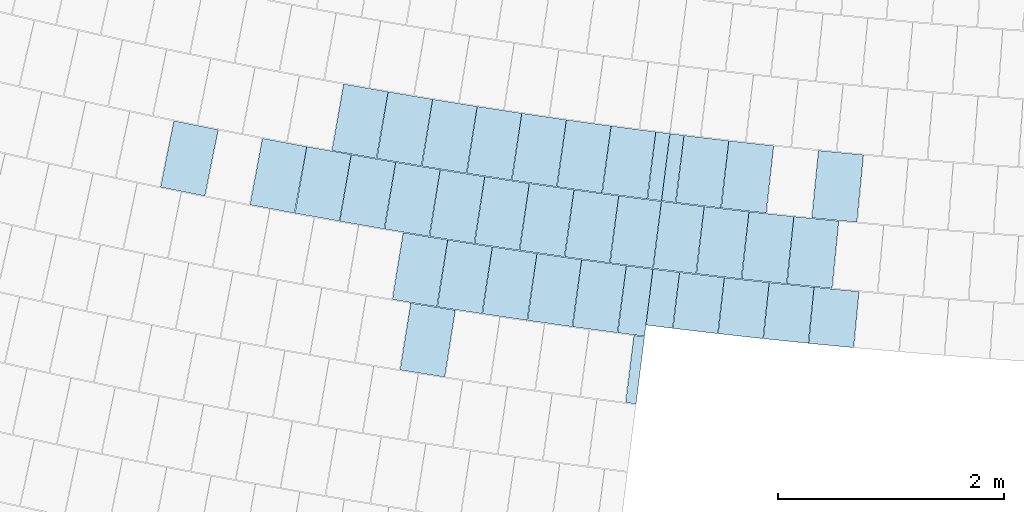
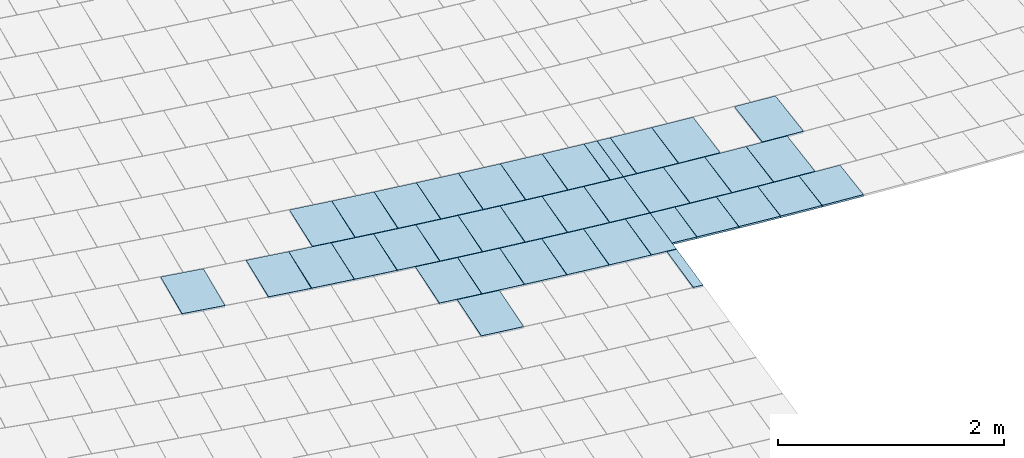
# One storey, part 36 of 438: 39 slabs.
"""IFC2X3 building model written with IfcOpenShell, lengths in millimetres."""

from ifc_helpers import new_model, entity, si_unit, converted_unit, derived_unit, direction, frame, frame_2d, origin, origin_2d_with_axis, place, context, subcontext, project, spatial, polyline, rectangle, outline, extrude, material, layer, layer_set, layer_usage, type_object, element, save


model = new_model("IFC2X3")

# Units and contexts
model_context = context("Model", 3, precision=0.01, world=origin(), true_north=direction((6.123031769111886e-17, 1.0)))
body_context = subcontext(model_context, "Body", "Model", "MODEL_VIEW")
ifc_project = project(units=[si_unit("LENGTHUNIT", "METRE", prefix="MILLI"), si_unit("AREAUNIT", "SQUARE_METRE"), si_unit("VOLUMEUNIT", "CUBIC_METRE"), converted_unit("PLANEANGLEUNIT", "DEGREE", entity("IfcRatioMeasure", 0.017453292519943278), si_unit("PLANEANGLEUNIT", "RADIAN"), dimensions=[0, 0, 0, 0, 0, 0, 0]), si_unit("MASSUNIT", "GRAM", prefix="KILO"), derived_unit("MASSDENSITYUNIT", [(si_unit("MASSUNIT", "GRAM", prefix="KILO"), 1), (si_unit("LENGTHUNIT", "METRE"), -3)]), derived_unit("MOMENTOFINERTIAUNIT", [(si_unit("LENGTHUNIT", "METRE"), 4)]), si_unit("TIMEUNIT", "SECOND"), si_unit("FREQUENCYUNIT", "HERTZ"), si_unit("THERMODYNAMICTEMPERATUREUNIT", "DEGREE_CELSIUS"), derived_unit("THERMALTRANSMITTANCEUNIT", [(si_unit("MASSUNIT", "GRAM", prefix="KILO"), 1), (si_unit("THERMODYNAMICTEMPERATUREUNIT", "KELVIN"), -1), (si_unit("TIMEUNIT", "SECOND"), -3)]), derived_unit("THERMALCONDUCTANCEUNIT", [(si_unit("MASSUNIT", "GRAM", prefix="KILO"), 1), (si_unit("LENGTHUNIT", "METRE"), 1), (si_unit("THERMODYNAMICTEMPERATUREUNIT", "KELVIN"), -1), (si_unit("TIMEUNIT", "SECOND"), -3)]), derived_unit("VOLUMETRICFLOWRATEUNIT", [(si_unit("LENGTHUNIT", "METRE"), 3), (si_unit("TIMEUNIT", "SECOND"), -1)]), derived_unit("MASSFLOWRATEUNIT", [(si_unit("MASSUNIT", "GRAM", prefix="KILO"), 1), (si_unit("TIMEUNIT", "SECOND"), -1)]), derived_unit("ROTATIONALFREQUENCYUNIT", [(si_unit("TIMEUNIT", "SECOND"), -1)]), si_unit("ELECTRICCURRENTUNIT", "AMPERE"), si_unit("ELECTRICVOLTAGEUNIT", "VOLT"), si_unit("POWERUNIT", "WATT"), converted_unit("FORCEUNIT", "KIP", entity("IfcRatioMeasure", 2.088543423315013e-05), si_unit("FORCEUNIT", "NEWTON"), dimensions=[1, 1, -2, 0, 0, 0, 0]), si_unit("ILLUMINANCEUNIT", "LUX"), si_unit("LUMINOUSFLUXUNIT", "LUMEN"), si_unit("LUMINOUSINTENSITYUNIT", "CANDELA"), derived_unit("USERDEFINED", [(si_unit("MASSUNIT", "GRAM", prefix="KILO"), -1), (si_unit("LENGTHUNIT", "METRE"), -2), (si_unit("TIMEUNIT", "SECOND"), 3), (si_unit("LUMINOUSFLUXUNIT", "LUMEN"), 1)]), derived_unit("USERDEFINED", [(si_unit("MASSUNIT", "GRAM", prefix="KILO"), 1), (si_unit("LENGTHUNIT", "METRE"), 3), (si_unit("TIMEUNIT", "SECOND"), -3), (si_unit("ELECTRICCURRENTUNIT", "AMPERE"), -2)]), derived_unit("USERDEFINED", [(si_unit("LENGTHUNIT", "METRE"), 2), (si_unit("TIMEUNIT", "SECOND"), -2)]), derived_unit("SOUNDPOWERUNIT", [(si_unit("MASSUNIT", "GRAM", prefix="KILO"), 1), (si_unit("LENGTHUNIT", "METRE"), 2), (si_unit("TIMEUNIT", "SECOND"), -3)]), derived_unit("SOUNDPRESSUREUNIT", [(si_unit("MASSUNIT", "GRAM", prefix="KILO"), 1), (si_unit("LENGTHUNIT", "METRE"), -1), (si_unit("TIMEUNIT", "SECOND"), -2)]), derived_unit("LINEARVELOCITYUNIT", [(si_unit("LENGTHUNIT", "METRE"), 1), (si_unit("TIMEUNIT", "SECOND"), -1)]), si_unit("PRESSUREUNIT", "PASCAL"), derived_unit("USERDEFINED", [(si_unit("LENGTHUNIT", "METRE"), -2), (si_unit("MASSUNIT", "GRAM", prefix="KILO"), 1), (si_unit("TIMEUNIT", "SECOND"), -2)]), derived_unit("LINEARFORCEUNIT", [(si_unit("MASSUNIT", "GRAM", prefix="KILO"), 1), (si_unit("LENGTHUNIT", "METRE"), 1), (si_unit("TIMEUNIT", "SECOND"), -2), (si_unit("LENGTHUNIT", "METRE"), -1)]), derived_unit("PLANARFORCEUNIT", [(si_unit("MASSUNIT", "GRAM", prefix="KILO"), 1), (si_unit("LENGTHUNIT", "METRE"), 1), (si_unit("TIMEUNIT", "SECOND"), -2), (si_unit("LENGTHUNIT", "METRE"), -2)]), derived_unit("SPECIFICHEATCAPACITYUNIT", [(si_unit("LENGTHUNIT", "METRE"), 2), (si_unit("TIMEUNIT", "SECOND"), -2), (si_unit("THERMODYNAMICTEMPERATUREUNIT", "KELVIN"), -1)]), derived_unit("VAPORPERMEABILITYUNIT", [(si_unit("TIMEUNIT", "SECOND"), 1), (si_unit("LENGTHUNIT", "METRE"), -1)]), derived_unit("DYNAMICVISCOSITYUNIT", [(si_unit("MASSUNIT", "GRAM", prefix="KILO"), 1), (si_unit("LENGTHUNIT", "METRE"), -1), (si_unit("TIMEUNIT", "SECOND"), -1)]), derived_unit("THERMALEXPANSIONCOEFFICIENTUNIT", [(si_unit("THERMODYNAMICTEMPERATUREUNIT", "KELVIN"), -1)])], contexts=[model_context])

# Site, building, storey
site_placement = place(None, frame((0.0, 0.0, 0.0), z_axis=(0.0, 0.0, 1.0), x_axis=(0.8191520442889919, 0.5735764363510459, 0.0)))
site = spatial("IfcSite", under=ifc_project, at=site_placement, Name="Default", CompositionType="ELEMENT")
building_placement = place(site_placement, origin())
building = spatial("IfcBuilding", under=site, at=building_placement, CompositionType="ELEMENT")
storey_placement = place(building_placement, origin())
storey = spatial("IfcBuildingStorey", under=building, at=storey_placement, Name="PLAN", CompositionType="ELEMENT", Elevation=0.0)

# Slabs
ifc_material = material(Name="Paint-01")
ifc_layer = layer(ifc_material, 20.00000000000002)
ifc_layer_set = layer_set([ifc_layer], Name="Floor:Slab-179:1000")
ifc_layer_usage = layer_usage(ifc_layer_set, "AXIS3", "POSITIVE", 0.0)
slab_type = type_object("IfcSlabType", Name="Floor:Slab-179:1000", PredefinedType="FLOOR", material=ifc_layer_set)
slab_1_placement = place(storey_placement, origin())
element("IfcSlab", 1, at=slab_1_placement, inside=storey, type_object=slab_type, material=ifc_layer_usage, Name="Floor:Slab-179:1000", ObjectType="Floor:Slab-179:1000", PredefinedType="FLOOR", context=body_context, shape_type="SweptSolid", body=[
    extrude(outline(polyline([(-299.9999976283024, -200.0000029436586), (300.0, -200.0000029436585), (299.9999976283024, 200.0000029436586), (-300.0, 200.00000294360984), (-299.9999976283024, -200.0000029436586)])), frame((-80055.35544558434, -108795.60264176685, 520.0), z_axis=(0.0, 0.0, -1.0), x_axis=(-0.697257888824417, -0.7168203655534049, 0.0)), (0.0, 0.0, 1.0), 20.000000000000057),
])
slab_2_placement = place(storey_placement, origin())
element("IfcSlab", 2, at=slab_2_placement, inside=storey, type_object=slab_type, material=ifc_layer_usage, Name="Floor:Slab-179:1000", ObjectType="Floor:Slab-179:1000", PredefinedType="FLOOR", context=body_context, shape_type="SweptSolid", body=[
    extrude(outline(polyline([(-299.9999976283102, -200.00000294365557), (300.0, -200.00000294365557), (299.9999976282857, 200.0000029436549), (-300.0, 200.00000294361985), (-299.9999976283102, -200.00000294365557)])), frame((-79474.92879441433, -109352.27222375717, 520.0), z_axis=(0.0, 0.0, -1.0), x_axis=(-0.6870722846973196, -0.7265890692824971, 0.0)), (0.0, 0.0, 1.0), 20.000000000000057),
])
slab_3_placement = place(storey_placement, origin())
element("IfcSlab", 3, at=slab_3_placement, inside=storey, type_object=slab_type, material=ifc_layer_usage, Name="Floor:Slab-179:1000", ObjectType="Floor:Slab-179:1000", PredefinedType="FLOOR", context=body_context, shape_type="SweptSolid", body=[
    extrude(outline(polyline([(-299.99999762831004, -200.00000294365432), (300.0, -200.00000294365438), (299.99999762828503, 200.0000029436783), (-300.0, 200.0000029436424), (-299.99999762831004, -200.00000294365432)])), frame((-79766.1241603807, -109074.96138382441, 520.0), z_axis=(0.0, 0.0, -1.0), x_axis=(-0.692182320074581, -0.7217226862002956, 0.0)), (0.0, 0.0, 1.0), 20.000000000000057),
])
slab_4_placement = place(storey_placement, origin())
element("IfcSlab", 4, at=slab_4_placement, inside=storey, type_object=slab_type, material=ifc_layer_usage, Name="Floor:Slab-179:1000", ObjectType="Floor:Slab-179:1000", PredefinedType="FLOOR", context=body_context, shape_type="SweptSolid", body=[
    extrude(outline(polyline([(-299.99999762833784, -200.0000029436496), (300.0, -200.00000294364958), (299.99999762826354, 200.00000294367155), (-300.0, 200.00000294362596), (-299.99999762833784, -200.0000029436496)])), frame((-79181.78384750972, -109627.52135310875, 520.0), z_axis=(0.0, 0.0, -1.0), x_axis=(-0.6819280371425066, -0.7314192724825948, 0.0)), (0.0, 0.0, 1.0), 20.000000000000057),
])
slab_5_placement = place(storey_placement, origin())
element("IfcSlab", 5, at=slab_5_placement, inside=storey, type_object=slab_type, material=ifc_layer_usage, Name="Floor:Slab-179:1000", ObjectType="Floor:Slab-179:1000", PredefinedType="FLOOR", context=body_context, shape_type="SweptSolid", body=[
    extrude(outline(polyline([(-299.9999980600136, -118.85163078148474), (299.999999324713, -118.8516307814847), (299.99999806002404, 118.85163078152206), (-299.99999932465, 118.85163078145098), (-299.9999980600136, -118.85163078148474)])), frame((-78649.8322184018, -110117.28554989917, 520.0), z_axis=(0.0, 0.0, -1.0), x_axis=(-0.6715379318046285, -0.7409701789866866, 0.0)), (0.0, 0.0, 1.0), 20.000000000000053),
])
slab_6_placement = place(storey_placement, origin())
element("IfcSlab", 6, at=slab_6_placement, inside=storey, type_object=slab_type, material=ifc_layer_usage, Name="Floor:Slab-179:1000", ObjectType="Floor:Slab-179:1000", PredefinedType="FLOOR", context=body_context, shape_type="SweptSolid", body=[
    extrude(outline(polyline([(-299.99999762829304, -200.00000294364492), (300.0, -200.0000029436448), (299.99999762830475, 200.00000294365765), (-300.0, 200.00000294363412), (-299.99999762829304, -200.00000294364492)])), frame((-78886.70391656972, -109900.69506608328, 520.0), z_axis=(0.0, 0.0, -1.0), x_axis=(-0.6767498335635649, -0.736213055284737, 0.0)), (0.0, 0.0, 1.0), 20.000000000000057),
])
slab_7_placement = place(storey_placement, origin())
element("IfcSlab", 7, at=slab_7_placement, inside=storey, type_object=slab_type, material=ifc_layer_usage, Name="Floor:Slab-179:1000", ObjectType="Floor:Slab-179:1000", PredefinedType="FLOOR", context=body_context, shape_type="SweptSolid", body=[
    extrude(outline(polyline([(-299.9999976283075, -200.0000029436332), (300.0, -200.00000294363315), (299.99999762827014, 200.00000294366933), (-300.0, 200.00000294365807), (-299.9999976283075, -200.0000029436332)])), frame((-80357.52409847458, -109345.34876439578, 520.0), z_axis=(0.0, 0.0, -1.0), x_axis=(-0.6951798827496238, -0.7188358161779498, 0.0)), (0.0, 0.0, 1.0), 20.000000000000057),
])
slab_8_placement = place(storey_placement, origin())
element("IfcSlab", 8, at=slab_8_placement, inside=storey, type_object=slab_type, material=ifc_layer_usage, Name="Floor:Slab-179:1000", ObjectType="Floor:Slab-179:1000", PredefinedType="FLOOR", context=body_context, shape_type="SweptSolid", body=[
    extrude(outline(polyline([(-300.0869166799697, -46.52403072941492), (299.91411537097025, -46.52403072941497), (300.08588201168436, 45.96689444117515), (-299.9130807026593, 47.08116701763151), (-300.0869166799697, -46.52403072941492)])), frame((-79002.21089198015, -110614.69864731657, 520.0), z_axis=(0.0, 0.0, -1.0), x_axis=(-0.6710449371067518, -0.7414166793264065, 0.0)), (0.0, 0.0, 1.0), 19.99999999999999),
])
slab_9_placement = place(storey_placement, origin())
element("IfcSlab", 9, at=slab_9_placement, inside=storey, type_object=slab_type, material=ifc_layer_usage, Name="Floor:Slab-179:1000", ObjectType="Floor:Slab-179:1000", PredefinedType="FLOOR", context=body_context, shape_type="SweptSolid", body=[
    extrude(outline(polyline([(-200.00000134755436, -299.9999986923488), (200.00000453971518, -299.9999986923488), (200.00000134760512, 299.9999986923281), (-200.00000453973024, 299.9999986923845), (-200.00000134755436, -299.9999986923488)])), frame((-76598.19095483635, -110313.81783896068, 520.0), z_axis=(0.0, 0.0, -1.0), x_axis=(0.759591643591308, -0.6504002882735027, 0.0)), (0.0, 0.0, 1.0), 19.999999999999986),
])
slab_10_placement = place(storey_placement, origin())
element("IfcSlab", 10, at=slab_10_placement, inside=storey, type_object=slab_type, material=ifc_layer_usage, Name="Floor:Slab-179:1000", ObjectType="Floor:Slab-179:1000", PredefinedType="FLOOR", context=body_context, shape_type="SweptSolid", body=[
    extrude(outline(polyline([(-200.0000013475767, -299.99999869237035), (200.00000453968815, -299.99999869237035), (200.00000134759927, 299.99999869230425), (-200.00000453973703, 299.9999986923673), (-200.0000013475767, -299.99999869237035)])), frame((-77205.35471754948, -109786.29900447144, 520.0), z_axis=(0.0, 0.0, -1.0), x_axis=(0.7501336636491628, -0.6612862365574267, 0.0)), (0.0, 0.0, 1.0), 20.000000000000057),
])
slab_11_placement = place(storey_placement, origin())
element("IfcSlab", 11, at=slab_11_placement, inside=storey, type_object=slab_type, material=ifc_layer_usage, Name="Floor:Slab-179:1000", ObjectType="Floor:Slab-179:1000", PredefinedType="FLOOR", context=body_context, shape_type="SweptSolid", body=[
    extrude(outline(polyline([(-299.9999990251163, -62.54949369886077), (299.9999983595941, -62.549493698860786), (299.99999902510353, 62.54949369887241), (-299.9999983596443, 62.549493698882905), (-299.9999990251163, -62.54949369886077)])), frame((-77703.06353469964, -109342.45101478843, 520.0), z_axis=(0.0, 0.0, -1.0), x_axis=(-0.6720346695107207, -0.7405196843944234, 0.0)), (0.0, 0.0, 1.0), 19.99999999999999),
])
slab_12_placement = place(storey_placement, origin())
element("IfcSlab", 12, at=slab_12_placement, inside=storey, type_object=slab_type, material=ifc_layer_usage, Name="Floor:Slab-179:1000", ObjectType="Floor:Slab-179:1000", PredefinedType="FLOOR", context=body_context, shape_type="SweptSolid", body=[
    extrude(outline(polyline([(-200.00000134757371, -299.9999986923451), (200.0000045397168, -299.99999869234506), (200.00000134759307, 299.9999986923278), (-200.0000045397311, 299.9999986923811), (-200.00000134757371, -299.9999986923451)])), frame((-77506.0681269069, -109519.26991161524, 520.0), z_axis=(0.0, 0.0, -1.0), x_axis=(0.7453460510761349, -0.66667778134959, 0.0)), (0.0, 0.0, 1.0), 20.000000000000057),
])
slab_13_placement = place(storey_placement, origin())
element("IfcSlab", 13, at=slab_13_placement, inside=storey, type_object=slab_type, material=ifc_layer_usage, Name="Floor:Slab-179:1000", ObjectType="Floor:Slab-179:1000", PredefinedType="FLOOR", context=body_context, shape_type="SweptSolid", body=[
    extrude(outline(polyline([(-200.00000134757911, -299.9999986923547), (200.00000453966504, -299.9999986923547), (200.0000013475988, 299.9999986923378), (-200.00000453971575, 299.99999869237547), (-200.00000134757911, -299.9999986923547)])), frame((-77114.28128520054, -110668.0912327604, 520.0), z_axis=(0.0, 0.0, -1.0), x_axis=(0.757724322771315, -0.6525747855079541, 0.0)), (0.0, 0.0, 1.0), 19.999999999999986),
])
slab_14_placement = place(storey_placement, origin())
element("IfcSlab", 14, at=slab_14_placement, inside=storey, type_object=slab_type, material=ifc_layer_usage, Name="Floor:Slab-179:1000", ObjectType="Floor:Slab-179:1000", PredefinedType="FLOOR", context=body_context, shape_type="SweptSolid", body=[
    extrude(outline(polyline([(-200.00000134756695, -299.99999869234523), (200.00000453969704, -299.99999869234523), (200.00000134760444, 299.99999869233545), (-200.0000045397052, 299.9999986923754), (-200.00000134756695, -299.99999869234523)])), frame((-77418.05263272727, -110404.58158332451, 520.0), z_axis=(0.0, 0.0, -1.0), x_axis=(0.7530505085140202, -0.6579627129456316, 0.0)), (0.0, 0.0, 1.0), 20.000000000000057),
])
slab_15_placement = place(storey_placement, origin())
element("IfcSlab", 15, at=slab_15_placement, inside=storey, type_object=slab_type, material=ifc_layer_usage, Name="Floor:Slab-179:1000", ObjectType="Floor:Slab-179:1000", PredefinedType="FLOOR", context=body_context, shape_type="SweptSolid", body=[
    extrude(outline(polyline([(-200.00000134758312, -299.99999869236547), (200.00000453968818, -299.99999869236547), (200.00000134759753, 299.9999986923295), (-200.00000453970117, 299.9999986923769), (-200.00000134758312, -299.99999869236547)])), frame((-77719.93675031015, -110138.91196429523, 520.0), z_axis=(0.0, 0.0, -1.0), x_axis=(0.7483383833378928, -0.6633171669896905, 0.0)), (0.0, 0.0, 1.0), 20.000000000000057),
])
slab_16_placement = place(storey_placement, origin())
element("IfcSlab", 16, at=slab_16_placement, inside=storey, type_object=slab_type, material=ifc_layer_usage, Name="Floor:Slab-179:1000", ObjectType="Floor:Slab-179:1000", PredefinedType="FLOOR", context=body_context, shape_type="SweptSolid", body=[
    extrude(outline(polyline([(-190.8923206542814, -299.9999986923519), (190.89232384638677, -299.9999986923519), (190.89232065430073, 299.99999869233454), (-190.89232384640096, 299.9999986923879), (-190.8923206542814, -299.9999986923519)])), frame((-78013.14591603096, -109877.18563169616, 520.0), z_axis=(0.0, 0.0, -1.0), x_axis=(0.7435881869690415, -0.668637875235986, 0.0)), (0.0, 0.0, 1.0), 19.999999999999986),
])
slab_17_placement = place(storey_placement, origin())
element("IfcSlab", 17, at=slab_17_placement, inside=storey, type_object=slab_type, material=ifc_layer_usage, Name="Floor:Slab-179:1000", ObjectType="Floor:Slab-179:1000", PredefinedType="FLOOR", context=body_context, shape_type="SweptSolid", body=[
    extrude(outline(polyline([(-200.0000016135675, -249.9999986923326), (200.0000042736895, -249.9999986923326), (200.00000161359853, 249.9999986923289), (-200.0000042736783, 249.99999869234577), (-200.0000016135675, -249.9999986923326)])), frame((-77292.71294840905, -111246.19785869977, 520.0), z_axis=(0.0, 0.0, -1.0), x_axis=(0.7604918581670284, -0.6493474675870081, 0.0)), (0.0, 0.0, 1.0), 20.000000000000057),
])
slab_18_placement = place(storey_placement, origin())
element("IfcSlab", 18, at=slab_18_placement, inside=storey, type_object=slab_type, material=ifc_layer_usage, Name="Floor:Slab-179:1000", ObjectType="Floor:Slab-179:1000", PredefinedType="FLOOR", context=body_context, shape_type="SweptSolid", body=[
    extrude(outline(polyline([(-200.00000161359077, -249.99999869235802), (200.0000042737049, -249.99999869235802), (200.0000016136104, 249.999998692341), (-200.00000427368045, 249.99999869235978), (-200.00000161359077, -249.99999869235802)])), frame((-77597.32704199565, -110984.23856866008, 520.0), z_axis=(0.0, 0.0, -1.0), x_axis=(0.7558908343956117, -0.654697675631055, 0.0)), (0.0, 0.0, 1.0), 20.000000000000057),
])
slab_19_placement = place(storey_placement, origin())
element("IfcSlab", 19, at=slab_19_placement, inside=storey, type_object=slab_type, material=ifc_layer_usage, Name="Floor:Slab-179:1000", ObjectType="Floor:Slab-179:1000", PredefinedType="FLOOR", context=body_context, shape_type="SweptSolid", body=[
    extrude(outline(polyline([(-200.00000161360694, -249.99999869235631), (200.00000427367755, -249.99999869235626), (200.00000161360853, 249.99999869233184), (-200.0000042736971, 249.99999869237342), (-200.00000161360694, -249.99999869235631)])), frame((-77900.08504821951, -110720.13630566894, 520.0), z_axis=(0.0, 0.0, -1.0), x_axis=(0.751252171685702, -0.6600152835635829, 0.0)), (0.0, 0.0, 1.0), 19.999999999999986),
])
slab_20_placement = place(storey_placement, origin())
element("IfcSlab", 20, at=slab_20_placement, inside=storey, type_object=slab_type, material=ifc_layer_usage, Name="Floor:Slab-179:1000", ObjectType="Floor:Slab-179:1000", PredefinedType="FLOOR", context=body_context, shape_type="SweptSolid", body=[
    extrude(outline(polyline([(-249.99999932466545, -118.85163078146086), (249.9999980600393, -118.85163078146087), (249.99999932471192, 118.85163078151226), (-249.99999806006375, 118.85163078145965), (-249.99999932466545, -118.85163078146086)])), frame((-78439.77162637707, -110239.96974403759, 520.0), z_axis=(0.0, 0.0, -1.0), x_axis=(-0.6705516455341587, -0.741862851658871, 0.0)), (0.0, 0.0, 1.0), 20.000000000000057),
])
slab_21_placement = place(storey_placement, origin())
element("IfcSlab", 21, at=slab_21_placement, inside=storey, type_object=slab_type, material=ifc_layer_usage, Name="Floor:Slab-179:1000", ObjectType="Floor:Slab-179:1000", PredefinedType="FLOOR", context=body_context, shape_type="SweptSolid", body=[
    extrude(outline(polyline([(-200.0000016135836, -249.99999869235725), (200.00000427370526, -249.99999869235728), (200.0000016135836, 249.99999869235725), (-200.00000427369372, 249.9999986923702), (-200.0000016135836, -249.99999869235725)])), frame((-78200.9718915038, -110453.90422047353, 520.0), z_axis=(0.0, 0.0, -1.0), x_axis=(0.7465761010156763, -0.6653000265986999, 0.0)), (0.0, 0.0, 1.0), 20.000000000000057),
])
slab_22_placement = place(storey_placement, origin())
element("IfcSlab", 22, at=slab_22_placement, inside=storey, type_object=slab_type, material=ifc_layer_usage, Name="Floor:Slab-179:1000", ObjectType="Floor:Slab-179:1000", PredefinedType="FLOOR", context=body_context, shape_type="SweptSolid", body=[
    extrude(outline(polyline([(-299.9999976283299, -200.00000294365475), (300.0, -200.00000294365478), (299.99999762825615, 200.00000294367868), (-300.0, 200.00000294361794), (-299.9999976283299, -200.00000294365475)])), frame((-79450.02607362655, -107695.01129342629, 520.0), z_axis=(0.0, 0.0, -1.0), x_axis=(-0.701531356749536, -0.712638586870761, 0.0)), (0.0, 0.0, 1.0), 20.000000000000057),
])
slab_23_placement = place(storey_placement, origin())
element("IfcSlab", 23, at=slab_23_placement, inside=storey, type_object=slab_type, material=ifc_layer_usage, Name="Floor:Slab-179:1000", ObjectType="Floor:Slab-179:1000", PredefinedType="FLOOR", context=body_context, shape_type="SweptSolid", body=[
    extrude(outline(polyline([(-299.9999976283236, -200.00000294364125), (300.0, -200.00000294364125), (299.9999976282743, 200.00000294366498), (-300.0, 200.00000294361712), (-299.9999976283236, -200.00000294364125)])), frame((-79162.4156952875, -107976.10444750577, 520.0), z_axis=(0.0, 0.0, -1.0), x_axis=(-0.6963747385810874, -0.71767835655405, 0.0)), (0.0, 0.0, 1.0), 20.000000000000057),
])
slab_24_placement = place(storey_placement, origin())
element("IfcSlab", 24, at=slab_24_placement, inside=storey, type_object=slab_type, material=ifc_layer_usage, Name="Floor:Slab-179:1000", ObjectType="Floor:Slab-179:1000", PredefinedType="FLOOR", context=body_context, shape_type="SweptSolid", body=[
    extrude(outline(polyline([(-299.9999976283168, -200.00000294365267), (300.0, -200.00000294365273), (299.9999976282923, 200.00000294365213), (-300.0, 200.00000294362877), (-299.9999976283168, -200.00000294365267)])), frame((-78872.78601010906, -108255.11651975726, 520.0), z_axis=(0.0, 0.0, -1.0), x_axis=(-0.6911819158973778, -0.7226808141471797, 0.0)), (0.0, 0.0, 1.0), 19.99999999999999),
])
slab_25_placement = place(storey_placement, origin())
element("IfcSlab", 25, at=slab_25_placement, inside=storey, type_object=slab_type, material=ifc_layer_usage, Name="Floor:Slab-179:1000", ObjectType="Floor:Slab-179:1000", PredefinedType="FLOOR", context=body_context, shape_type="SweptSolid", body=[
    extrude(rectangle(XDim=599.9998730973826, YDim=399.99992303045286, at=origin_2d_with_axis()), frame((-79735.8297577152, -107411.80615755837, 520.0), z_axis=(0.0, 0.0, -1.0), x_axis=(-0.7071067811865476, -0.7071067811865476, 0.0)), (0.0, 0.0, 1.0), 19.999999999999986),
])
slab_26_placement = place(storey_placement, origin())
element("IfcSlab", 26, at=slab_26_placement, inside=storey, type_object=slab_type, material=ifc_layer_usage, Name="Floor:Slab-179:1000", ObjectType="Floor:Slab-179:1000", PredefinedType="FLOOR", context=body_context, shape_type="SweptSolid", body=[
    extrude(outline(polyline([(-299.9999976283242, -200.0000029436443), (300.0, -200.00000294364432), (299.99999762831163, 200.0000029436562), (-300.0, 200.00000294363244), (-299.9999976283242, -200.0000029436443)])), frame((-78581.15207593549, -108532.0330043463, 520.0), z_axis=(0.0, 0.0, -1.0), x_axis=(-0.6859531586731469, -0.727645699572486, 0.0)), (0.0, 0.0, 1.0), 19.99999999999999),
])
slab_27_placement = place(storey_placement, origin())
element("IfcSlab", 27, at=slab_27_placement, inside=storey, type_object=slab_type, material=ifc_layer_usage, Name="Floor:Slab-179:1000", ObjectType="Floor:Slab-179:1000", PredefinedType="FLOOR", context=body_context, shape_type="SweptSolid", body=[
    extrude(outline(polyline([(-299.9999983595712, -62.54949369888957), (299.99999902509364, -62.54949369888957), (299.99999835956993, 62.549493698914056), (-299.999999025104, 62.549493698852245), (-299.9999983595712, -62.54949369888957)])), frame((-77796.40812639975, -109257.96624743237, 520.0), z_axis=(0.0, 0.0, -1.0), x_axis=(-0.670054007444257, -0.7423123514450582, 0.0)), (0.0, 0.0, 1.0), 20.000000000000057),
])
slab_28_placement = place(storey_placement, origin())
element("IfcSlab", 28, at=slab_28_placement, inside=storey, type_object=slab_type, material=ifc_layer_usage, Name="Floor:Slab-179:1000", ObjectType="Floor:Slab-179:1000", PredefinedType="FLOOR", context=body_context, shape_type="SweptSolid", body=[
    extrude(outline(polyline([(-299.99999762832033, -200.00000294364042), (300.0, -200.0000029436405), (299.99999762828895, 200.00000294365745), (-300.0, 200.00000294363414), (-299.99999762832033, -200.00000294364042)])), frame((-77991.93221219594, -109079.52173269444, 520.0), z_axis=(0.0, 0.0, -1.0), x_axis=(-0.6753889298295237, -0.7374617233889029, 0.0)), (0.0, 0.0, 1.0), 20.000000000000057),
])
slab_29_placement = place(storey_placement, origin())
element("IfcSlab", 29, at=slab_29_placement, inside=storey, type_object=slab_type, material=ifc_layer_usage, Name="Floor:Slab-179:1000", ObjectType="Floor:Slab-179:1000", PredefinedType="FLOOR", context=body_context, shape_type="SweptSolid", body=[
    extrude(outline(polyline([(-299.9999976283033, -200.00000294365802), (300.0, -200.00000294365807), (299.99999762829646, 200.00000294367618), (-300.0, 200.00000294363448), (-299.9999976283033, -200.00000294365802)])), frame((-78287.52905481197, -108806.8395043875, 520.0), z_axis=(0.0, 0.0, -1.0), x_axis=(-0.6806887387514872, -0.7325727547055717, 0.0)), (0.0, 0.0, 1.0), 20.000000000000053),
])
slab_30_placement = place(storey_placement, origin())
element("IfcSlab", 30, at=slab_30_placement, inside=storey, type_object=slab_type, material=ifc_layer_usage, Name="Floor:Slab-179:1000", ObjectType="Floor:Slab-179:1000", PredefinedType="FLOOR", context=body_context, shape_type="SweptSolid", body=[
    extrude(rectangle(XDim=599.9965510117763, YDim=399.99770829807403, at=frame_2d((-1.2249756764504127e-11, 0.0), x_axis=(1.0, 0.0))), frame((-80322.49086668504, -107679.16189459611, 520.0), z_axis=(0.0, 0.0, -1.0), x_axis=(-0.7071067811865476, -0.7071067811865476, 0.0)), (0.0, 0.0, 1.0), 19.999999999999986),
])
slab_31_placement = place(storey_placement, origin())
element("IfcSlab", 31, at=slab_31_placement, inside=storey, type_object=slab_type, material=ifc_layer_usage, Name="Floor:Slab-179:1000", ObjectType="Floor:Slab-179:1000", PredefinedType="FLOOR", context=body_context, shape_type="SweptSolid", body=[
    extrude(outline(polyline([(-299.9999976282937, -200.0000029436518), (300.0, -200.00000294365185), (299.99999762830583, 200.00000294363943), (-300.0, 200.00000294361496), (-299.9999976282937, -200.0000029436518)])), frame((-80606.05842443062, -107392.59726767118, 520.0), z_axis=(0.0, 0.0, -1.0), x_axis=(-0.7145076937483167, -0.6996275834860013, 0.0)), (0.0, 0.0, 1.0), 20.000000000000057),
])
slab_32_placement = place(storey_placement, origin())
element("IfcSlab", 32, at=slab_32_placement, inside=storey, type_object=slab_type, material=ifc_layer_usage, Name="Floor:Slab-179:1000", ObjectType="Floor:Slab-179:1000", PredefinedType="FLOOR", context=body_context, shape_type="SweptSolid", body=[
    extrude(outline(polyline([(-299.9999976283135, -200.00000294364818), (300.0, -200.00000294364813), (299.99999762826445, 200.00000294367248), (-300.0, 200.0000029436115), (-299.9999976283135, -200.00000294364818)])), frame((-80039.28490977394, -107963.22588916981, 520.0), z_axis=(0.0, 0.0, -1.0), x_axis=(-0.7044549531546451, -0.7097487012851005, 0.0)), (0.0, 0.0, 1.0), 19.99999999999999),
])
slab_33_placement = place(storey_placement, origin())
element("IfcSlab", 33, at=slab_33_placement, inside=storey, type_object=slab_type, material=ifc_layer_usage, Name="Floor:Slab-179:1000", ObjectType="Floor:Slab-179:1000", PredefinedType="FLOOR", context=body_context, shape_type="SweptSolid", body=[
    extrude(outline(polyline([(-299.9999976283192, -200.00000294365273), (300.0, -200.0000029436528), (299.9999976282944, 200.00000294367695), (-300.0, 200.0000029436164), (-299.9999976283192, -200.00000294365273)])), frame((-79752.86004305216, -108245.49378080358, 520.0), z_axis=(0.0, 0.0, -1.0), x_axis=(-0.6993746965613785, -0.7147552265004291, 0.0)), (0.0, 0.0, 1.0), 20.000000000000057),
])
slab_34_placement = place(storey_placement, origin())
element("IfcSlab", 34, at=slab_34_placement, inside=storey, type_object=slab_type, material=ifc_layer_usage, Name="Floor:Slab-179:1000", ObjectType="Floor:Slab-179:1000", PredefinedType="FLOOR", context=body_context, shape_type="SweptSolid", body=[
    extrude(outline(polyline([(-299.99999762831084, -200.0000029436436), (300.0, -200.0000029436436), (299.9999976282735, 200.00000294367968), (-300.0, 200.00000294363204), (-299.99999762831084, -200.0000029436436)])), frame((-79464.42916469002, -108525.71154492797, 520.0), z_axis=(0.0, 0.0, -1.0), x_axis=(-0.6942588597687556, -0.7197253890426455, 0.0)), (0.0, 0.0, 1.0), 20.000000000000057),
])
slab_35_placement = place(storey_placement, origin())
element("IfcSlab", 35, at=slab_35_placement, inside=storey, type_object=slab_type, material=ifc_layer_usage, Name="Floor:Slab-179:1000", ObjectType="Floor:Slab-179:1000", PredefinedType="FLOOR", context=body_context, shape_type="SweptSolid", body=[
    extrude(outline(polyline([(-299.99999762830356, -200.00000294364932), (300.0, -200.00000294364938), (299.99999762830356, 200.00000294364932), (-300.0, 200.000002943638), (-299.99999762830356, -200.00000294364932)])), frame((-79174.00694840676, -108803.86492566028, 520.0), z_axis=(0.0, 0.0, -1.0), x_axis=(-0.6891077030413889, -0.7246589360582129, 0.0)), (0.0, 0.0, 1.0), 20.000000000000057),
])
slab_36_placement = place(storey_placement, origin())
element("IfcSlab", 36, at=slab_36_placement, inside=storey, type_object=slab_type, material=ifc_layer_usage, Name="Floor:Slab-179:1000", ObjectType="Floor:Slab-179:1000", PredefinedType="FLOOR", context=body_context, shape_type="SweptSolid", body=[
    extrude(outline(polyline([(-299.99999762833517, -200.00000294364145), (300.0, -200.00000294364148), (299.99999762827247, 200.00000294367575), (-300.0, 200.00000294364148), (-299.99999762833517, -200.00000294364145)])), frame((-78587.24770274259, -109353.92203925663, 520.0), z_axis=(0.0, 0.0, -1.0), x_axis=(-0.6787004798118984, -0.7344151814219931, 0.0)), (0.0, 0.0, 1.0), 20.000000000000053),
])
slab_37_placement = place(storey_placement, origin())
element("IfcSlab", 37, at=slab_37_placement, inside=storey, type_object=slab_type, material=ifc_layer_usage, Name="Floor:Slab-179:1000", ObjectType="Floor:Slab-179:1000", PredefinedType="FLOOR", context=body_context, shape_type="SweptSolid", body=[
    extrude(outline(polyline([(-299.9999976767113, -190.900823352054), (300.0, -190.90082335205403), (299.9999976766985, 190.9008233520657), (-300.0, 190.90082335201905), (-299.9999976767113, -190.900823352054)])), frame((-78297.66697800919, -109619.66999183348, 520.0), z_axis=(0.0, 0.0, -1.0), x_axis=(-0.6734449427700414, -0.7392373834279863, 0.0)), (0.0, 0.0, 1.0), 19.99999999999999),
])
slab_38_placement = place(storey_placement, origin())
element("IfcSlab", 38, at=slab_38_placement, inside=storey, type_object=slab_type, material=ifc_layer_usage, Name="Floor:Slab-179:1000", ObjectType="Floor:Slab-179:1000", PredefinedType="FLOOR", context=body_context, shape_type="SweptSolid", body=[
    extrude(outline(polyline([(-299.99999762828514, -200.00000294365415), (300.0, -200.0000029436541), (299.99999762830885, 200.00000294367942), (-300.0, 200.00000294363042), (-299.99999762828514, -200.00000294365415)])), frame((-78881.6081692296, -109079.93977214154, 520.0), z_axis=(0.0, 0.0, -1.0), x_axis=(-0.683921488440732, -0.7295556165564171, 0.0)), (0.0, 0.0, 1.0), 20.000000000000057),
])
slab_39_placement = place(storey_placement, origin())
element("IfcSlab", 39, at=slab_39_placement, inside=storey, type_object=slab_type, material=ifc_layer_usage, Name="Floor:Slab-179:1000", ObjectType="Floor:Slab-179:1000", PredefinedType="FLOOR", context=body_context, shape_type="SweptSolid", body=[
    extrude(outline(polyline([(-299.99999762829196, -200.00000294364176), (300.0, -200.00000294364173), (299.9999976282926, 200.00000294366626), (-300.0, 200.00000294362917), (-299.99999762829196, -200.00000294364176)])), frame((-81164.63437329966, -106813.94180028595, 520.0), z_axis=(0.0, 0.0, -1.0), x_axis=(-0.724415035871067, -0.6893640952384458, 0.0)), (0.0, 0.0, 1.0), 19.999999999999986),
])

save(model, "model.ifc")
